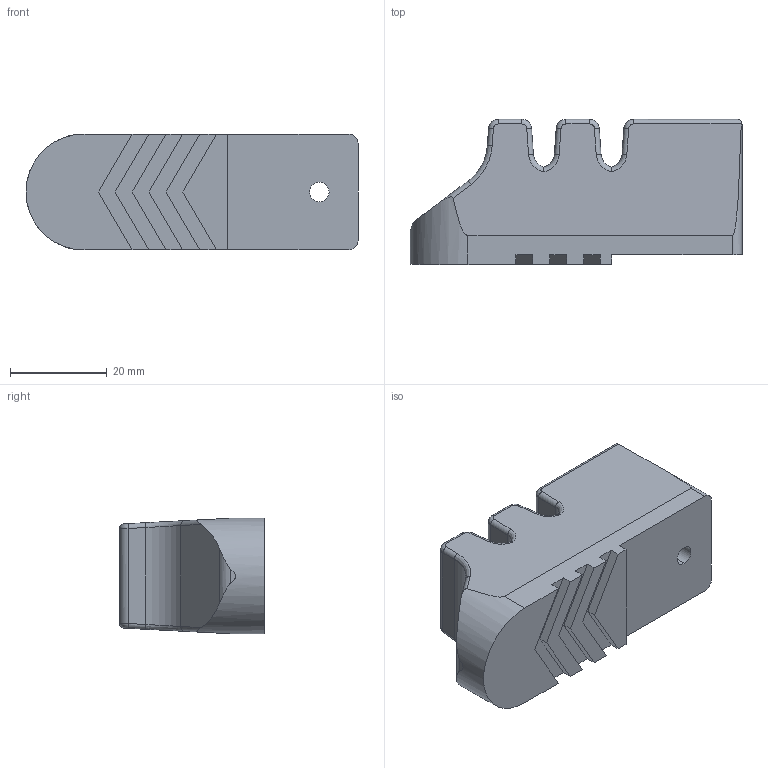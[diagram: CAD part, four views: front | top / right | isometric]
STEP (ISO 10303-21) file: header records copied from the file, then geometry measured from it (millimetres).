
FILE_DESCRIPTION (( 'STEP AP214' ), '1' );
FILE_NAME ('A3.STEP', '2019-12-04T07:18:39', ( '微软用户' ), ( '微软中国' ), 'SwSTEP 2.0', 'SolidWorks 2016', '' );
FILE_SCHEMA (( 'AUTOMOTIVE_DESIGN' ));
Length unit declared in the file: millimetre
Products named in the file (1): A3
Bounding box: 68.7 x 30 x 24 mm (x, y, z)
Volume: 37009.5 mm3; surface area: 8608.1 mm2
Topology: 1 solids, 1 shells, 91 faces, 231 edges, 142 vertices
Faces by surface type: plane 36, cylinder 35, bspline 20
Entity records: 5107 total; most frequent: CARTESIAN_POINT 2091, ORIENTED_EDGE 462, DIRECTION 349, EDGE_CURVE 231, VERTEX_POINT 142, LINE 131, VECTOR 131, AXIS2_PLACEMENT_3D 109
